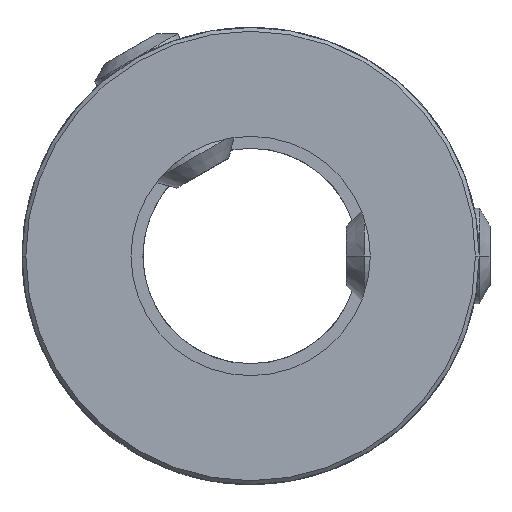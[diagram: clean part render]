
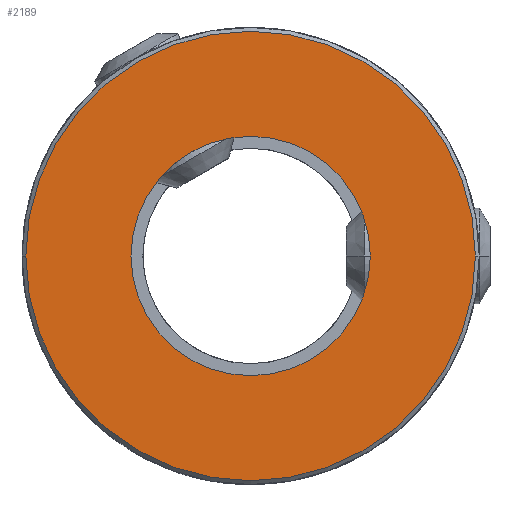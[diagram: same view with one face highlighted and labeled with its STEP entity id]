
A CAD part, front view. The second image highlights one B-rep face of the part: STEP entity #2189.
In plain terms, the highlighted planar face has unit normal (0, -1, 0).
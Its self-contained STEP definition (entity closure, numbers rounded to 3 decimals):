
#1=CARTESIAN_POINT('',(0.,-14.,
0.));
#2=DIRECTION('',(0.,-1.,0.));
#3=DIRECTION('',(-1.,0.,0.));
#4=AXIS2_PLACEMENT_3D('',#1,#2,#3);
#6=CARTESIAN_POINT('',(0.,-14.,
0.));
#7=DIRECTION('',(0.,-1.,0.));
#8=DIRECTION('',(1.,0.,0.));
#9=AXIS2_PLACEMENT_3D('',#6,#7,#8);
#11=CARTESIAN_POINT('',(0.,-14.,0.));
#12=DIRECTION('',(0.,1.,0.));
#13=DIRECTION('',(1.,0.,0.));
#14=AXIS2_PLACEMENT_3D('',#11,#12,#13);
#16=CARTESIAN_POINT('',(0.,-14.,0.));
#17=DIRECTION('',(0.,1.,0.));
#18=DIRECTION('',(-1.,0.,0.));
#19=AXIS2_PLACEMENT_3D('',#16,#17,#18);
#1981=CARTESIAN_POINT('',(5.,-14.,0.));
#1982=CARTESIAN_POINT('',(-5.,-14.,0.));
#1983=VERTEX_POINT('',#1981);
#1984=VERTEX_POINT('',#1982);
#2001=CARTESIAN_POINT('',(-9.39,-14.,0.));
#2002=CARTESIAN_POINT('',(9.39,-14.,0.));
#2003=VERTEX_POINT('',#2001);
#2004=VERTEX_POINT('',#2002);
#2172=CARTESIAN_POINT('',(0.,-14.,0.));
#2173=DIRECTION('',(0.,1.,0.));
#2174=DIRECTION('',(1.,0.,0.));
#2175=AXIS2_PLACEMENT_3D('',#2172,#2173,#2174);
#2176=PLANE('',#2175);
#2178=ORIENTED_EDGE('',*,*,#2177,.F.);
#2180=ORIENTED_EDGE('',*,*,#2179,.F.);
#2181=EDGE_LOOP('',(#2178,#2180));
#2182=FACE_OUTER_BOUND('',#2181,.F.);
#2184=ORIENTED_EDGE('',*,*,#2183,.F.);
#2186=ORIENTED_EDGE('',*,*,#2185,.F.);
#2187=EDGE_LOOP('',(#2184,#2186));
#2188=FACE_BOUND('',#2187,.F.);
#2189=ADVANCED_FACE('',(#2182,#2188),#2176,.F.);
#5=CIRCLE('',#4,9.39);
#10=CIRCLE('',#9,9.39);
#15=CIRCLE('',#14,5.);
#20=CIRCLE('',#19,5.);
#2177=EDGE_CURVE('',#2003,#2004,#5,.T.);
#2179=EDGE_CURVE('',#2004,#2003,#10,.T.);
#2183=EDGE_CURVE('',#1983,#1984,#15,.T.);
#2185=EDGE_CURVE('',#1984,#1983,#20,.T.);
